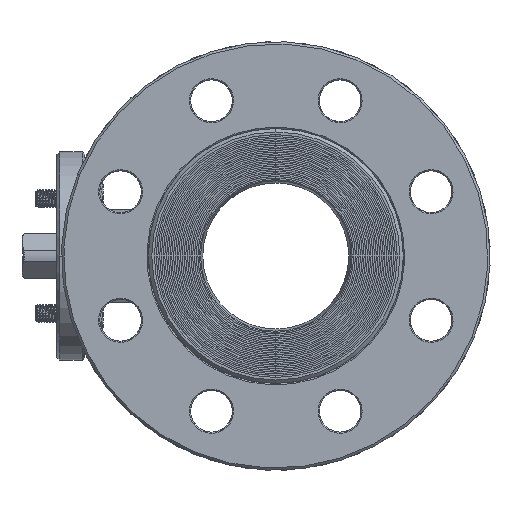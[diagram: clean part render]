
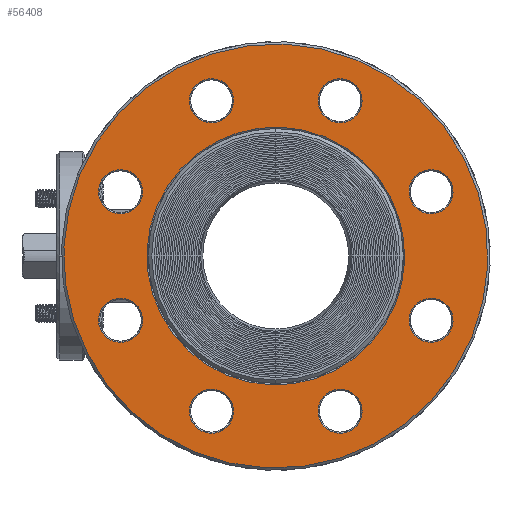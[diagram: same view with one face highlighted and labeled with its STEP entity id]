
A CAD part, left-side view. The second image highlights one B-rep face of the part: STEP entity #56408.
In plain terms, the highlighted planar face has unit normal (-1, 0, 0).
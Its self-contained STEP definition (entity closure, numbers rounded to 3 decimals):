
#13014=CARTESIAN_POINT('',(-83.,0.,0.));
#13015=DIRECTION('',(-1.,0.,0.));
#13016=DIRECTION('',(0.,0.924,0.383));
#13017=AXIS2_PLACEMENT_3D('',#13014,#13015,#13016);
#13022=CARTESIAN_POINT('',(-83.,0.,0.));
#13023=DIRECTION('',(-1.,0.,0.));
#13024=DIRECTION('',(0.,-0.924,-0.383));
#13025=AXIS2_PLACEMENT_3D('',#13022,#13023,#13024);
#13030=CARTESIAN_POINT('',(-83.,0.,0.));
#13031=DIRECTION('',(-1.,0.,0.));
#13032=DIRECTION('',(0.,0.924,0.383));
#13033=AXIS2_PLACEMENT_3D('',#13030,#13031,#13032);
#13038=CARTESIAN_POINT('',(-83.,0.,0.));
#13039=DIRECTION('',(-1.,0.,0.));
#13040=DIRECTION('',(0.,-0.924,-0.383));
#13041=AXIS2_PLACEMENT_3D('',#13038,#13039,#13040);
#13046=CARTESIAN_POINT('',(-83.,-27.745,-66.981));
#13047=DIRECTION('',(1.,0.,0.));
#13048=DIRECTION('',(0.,-0.924,-0.383));
#13049=AXIS2_PLACEMENT_3D('',#13046,#13047,#13048);
#13054=CARTESIAN_POINT('',(-83.,-27.745,-66.981));
#13055=DIRECTION('',(1.,0.,0.));
#13056=DIRECTION('',(0.,0.924,0.383));
#13057=AXIS2_PLACEMENT_3D('',#13054,#13055,#13056);
#13062=CARTESIAN_POINT('',(-83.,-66.981,-27.745));
#13063=DIRECTION('',(1.,0.,0.));
#13064=DIRECTION('',(0.,-0.924,-0.383));
#13065=AXIS2_PLACEMENT_3D('',#13062,#13063,#13064);
#13070=CARTESIAN_POINT('',(-83.,-66.981,-27.745));
#13071=DIRECTION('',(1.,0.,0.));
#13072=DIRECTION('',(0.,0.924,0.383));
#13073=AXIS2_PLACEMENT_3D('',#13070,#13071,#13072);
#13078=CARTESIAN_POINT('',(-83.,-66.981,27.745));
#13079=DIRECTION('',(1.,0.,0.));
#13080=DIRECTION('',(0.,-0.924,-0.383));
#13081=AXIS2_PLACEMENT_3D('',#13078,#13079,#13080);
#13086=CARTESIAN_POINT('',(-83.,-66.981,27.745));
#13087=DIRECTION('',(1.,0.,0.));
#13088=DIRECTION('',(0.,0.924,0.383));
#13089=AXIS2_PLACEMENT_3D('',#13086,#13087,#13088);
#13094=CARTESIAN_POINT('',(-83.,-27.745,66.981));
#13095=DIRECTION('',(1.,0.,0.));
#13096=DIRECTION('',(0.,-0.924,-0.383));
#13097=AXIS2_PLACEMENT_3D('',#13094,#13095,#13096);
#13102=CARTESIAN_POINT('',(-83.,-27.745,66.981));
#13103=DIRECTION('',(1.,0.,0.));
#13104=DIRECTION('',(0.,0.924,0.383));
#13105=AXIS2_PLACEMENT_3D('',#13102,#13103,#13104);
#13110=CARTESIAN_POINT('',(-83.,27.745,66.981));
#13111=DIRECTION('',(1.,0.,0.));
#13112=DIRECTION('',(0.,-0.924,-0.383));
#13113=AXIS2_PLACEMENT_3D('',#13110,#13111,#13112);
#13118=CARTESIAN_POINT('',(-83.,27.745,66.981));
#13119=DIRECTION('',(1.,0.,0.));
#13120=DIRECTION('',(0.,0.924,0.383));
#13121=AXIS2_PLACEMENT_3D('',#13118,#13119,#13120);
#13126=CARTESIAN_POINT('',(-83.,66.981,27.745));
#13127=DIRECTION('',(1.,0.,0.));
#13128=DIRECTION('',(0.,-0.924,-0.383));
#13129=AXIS2_PLACEMENT_3D('',#13126,#13127,#13128);
#13134=CARTESIAN_POINT('',(-83.,66.981,27.745));
#13135=DIRECTION('',(1.,0.,0.));
#13136=DIRECTION('',(0.,0.924,0.383));
#13137=AXIS2_PLACEMENT_3D('',#13134,#13135,#13136);
#13142=CARTESIAN_POINT('',(-83.,66.981,-27.745));
#13143=DIRECTION('',(1.,0.,0.));
#13144=DIRECTION('',(0.,-0.924,-0.383));
#13145=AXIS2_PLACEMENT_3D('',#13142,#13143,#13144);
#13150=CARTESIAN_POINT('',(-83.,66.981,-27.745));
#13151=DIRECTION('',(1.,0.,0.));
#13152=DIRECTION('',(0.,0.924,0.383));
#13153=AXIS2_PLACEMENT_3D('',#13150,#13151,#13152);
#13158=CARTESIAN_POINT('',(-83.,27.745,-66.981));
#13159=DIRECTION('',(1.,0.,0.));
#13160=DIRECTION('',(0.,-0.924,-0.383));
#13161=AXIS2_PLACEMENT_3D('',#13158,#13159,#13160);
#13166=CARTESIAN_POINT('',(-83.,27.745,-66.981));
#13167=DIRECTION('',(1.,0.,0.));
#13168=DIRECTION('',(0.,0.924,0.383));
#13169=AXIS2_PLACEMENT_3D('',#13166,#13167,#13168);
#47486=CARTESIAN_POINT('',(-83.,51.368,21.277));
#47487=CARTESIAN_POINT('',(-83.,-51.368,-21.277));
#47488=VERTEX_POINT('',#47486);
#47489=VERTEX_POINT('',#47487);
#47506=CARTESIAN_POINT('',(-83.,84.535,35.016));
#47507=CARTESIAN_POINT('',(-83.,-84.535,-35.016));
#47508=VERTEX_POINT('',#47506);
#47509=VERTEX_POINT('',#47507);
#47578=CARTESIAN_POINT('',(-83.,-36.521,-70.617));
#47579=CARTESIAN_POINT('',(-83.,-18.968,-63.346));
#47580=VERTEX_POINT('',#47578);
#47581=VERTEX_POINT('',#47579);
#47586=CARTESIAN_POINT('',(-83.,-75.758,-31.38));
#47587=CARTESIAN_POINT('',(-83.,-58.205,-24.109));
#47588=VERTEX_POINT('',#47586);
#47589=VERTEX_POINT('',#47587);
#47594=CARTESIAN_POINT('',(-83.,-75.758,24.109));
#47595=CARTESIAN_POINT('',(-83.,-58.205,31.38));
#47596=VERTEX_POINT('',#47594);
#47597=VERTEX_POINT('',#47595);
#47602=CARTESIAN_POINT('',(-83.,-36.521,63.346));
#47603=CARTESIAN_POINT('',(-83.,-18.968,70.617));
#47604=VERTEX_POINT('',#47602);
#47605=VERTEX_POINT('',#47603);
#47610=CARTESIAN_POINT('',(-83.,18.968,63.346));
#47611=CARTESIAN_POINT('',(-83.,36.521,70.617));
#47612=VERTEX_POINT('',#47610);
#47613=VERTEX_POINT('',#47611);
#47618=CARTESIAN_POINT('',(-83.,58.205,24.109));
#47619=CARTESIAN_POINT('',(-83.,75.758,31.38));
#47620=VERTEX_POINT('',#47618);
#47621=VERTEX_POINT('',#47619);
#47626=CARTESIAN_POINT('',(-83.,58.205,-31.38));
#47627=CARTESIAN_POINT('',(-83.,75.758,-24.109));
#47628=VERTEX_POINT('',#47626);
#47629=VERTEX_POINT('',#47627);
#47634=CARTESIAN_POINT('',(-83.,18.968,-70.617));
#47635=CARTESIAN_POINT('',(-83.,36.521,-63.346));
#47636=VERTEX_POINT('',#47634);
#47637=VERTEX_POINT('',#47635);
#56344=CARTESIAN_POINT('',(-83.,0.,0.));
#56345=DIRECTION('',(-1.,0.,0.));
#56346=DIRECTION('',(0.,-0.924,-0.383));
#56347=AXIS2_PLACEMENT_3D('',#56344,#56345,#56346);
#56348=PLANE('',#56347);
#56349=ORIENTED_EDGE('',*,*,#56334,.F.);
#56351=ORIENTED_EDGE('',*,*,#56350,.F.);
#56352=EDGE_LOOP('',(#56349,#56351));
#56353=FACE_OUTER_BOUND('',#56352,.F.);
#56355=ORIENTED_EDGE('',*,*,#56354,.T.);
#56357=ORIENTED_EDGE('',*,*,#56356,.T.);
#56358=EDGE_LOOP('',(#56355,#56357));
#56359=FACE_BOUND('',#56358,.F.);
#56361=ORIENTED_EDGE('',*,*,#56360,.F.);
#56363=ORIENTED_EDGE('',*,*,#56362,.F.);
#56364=EDGE_LOOP('',(#56361,#56363));
#56365=FACE_BOUND('',#56364,.F.);
#56367=ORIENTED_EDGE('',*,*,#56366,.F.);
#56369=ORIENTED_EDGE('',*,*,#56368,.F.);
#56370=EDGE_LOOP('',(#56367,#56369));
#56371=FACE_BOUND('',#56370,.F.);
#56373=ORIENTED_EDGE('',*,*,#56372,.F.);
#56375=ORIENTED_EDGE('',*,*,#56374,.F.);
#56376=EDGE_LOOP('',(#56373,#56375));
#56377=FACE_BOUND('',#56376,.F.);
#56379=ORIENTED_EDGE('',*,*,#56378,.F.);
#56381=ORIENTED_EDGE('',*,*,#56380,.F.);
#56382=EDGE_LOOP('',(#56379,#56381));
#56383=FACE_BOUND('',#56382,.F.);
#56385=ORIENTED_EDGE('',*,*,#56384,.F.);
#56387=ORIENTED_EDGE('',*,*,#56386,.F.);
#56388=EDGE_LOOP('',(#56385,#56387));
#56389=FACE_BOUND('',#56388,.F.);
#56391=ORIENTED_EDGE('',*,*,#56390,.F.);
#56393=ORIENTED_EDGE('',*,*,#56392,.F.);
#56394=EDGE_LOOP('',(#56391,#56393));
#56395=FACE_BOUND('',#56394,.F.);
#56397=ORIENTED_EDGE('',*,*,#56396,.F.);
#56399=ORIENTED_EDGE('',*,*,#56398,.F.);
#56400=EDGE_LOOP('',(#56397,#56399));
#56401=FACE_BOUND('',#56400,.F.);
#56403=ORIENTED_EDGE('',*,*,#56402,.F.);
#56405=ORIENTED_EDGE('',*,*,#56404,.F.);
#56406=EDGE_LOOP('',(#56403,#56405));
#56407=FACE_BOUND('',#56406,.F.);
#56408=ADVANCED_FACE('',(#56353,#56359,#56365,#56371,#56377,#56383,#56389,
#56395,#56401,#56407),#56348,.T.);
#13018=CIRCLE('',#13017,55.6);
#13026=CIRCLE('',#13025,55.6);
#13034=CIRCLE('',#13033,91.5);
#13042=CIRCLE('',#13041,91.5);
#13050=CIRCLE('',#13049,9.5);
#13058=CIRCLE('',#13057,9.5);
#13066=CIRCLE('',#13065,9.5);
#13074=CIRCLE('',#13073,9.5);
#13082=CIRCLE('',#13081,9.5);
#13090=CIRCLE('',#13089,9.5);
#13098=CIRCLE('',#13097,9.5);
#13106=CIRCLE('',#13105,9.5);
#13114=CIRCLE('',#13113,9.5);
#13122=CIRCLE('',#13121,9.5);
#13130=CIRCLE('',#13129,9.5);
#13138=CIRCLE('',#13137,9.5);
#13146=CIRCLE('',#13145,9.5);
#13154=CIRCLE('',#13153,9.5);
#13162=CIRCLE('',#13161,9.5);
#13170=CIRCLE('',#13169,9.5);
#56334=EDGE_CURVE('',#47508,#47509,#13034,.T.);
#56350=EDGE_CURVE('',#47509,#47508,#13042,.T.);
#56354=EDGE_CURVE('',#47488,#47489,#13018,.T.);
#56356=EDGE_CURVE('',#47489,#47488,#13026,.T.);
#56360=EDGE_CURVE('',#47580,#47581,#13050,.T.);
#56362=EDGE_CURVE('',#47581,#47580,#13058,.T.);
#56366=EDGE_CURVE('',#47588,#47589,#13066,.T.);
#56368=EDGE_CURVE('',#47589,#47588,#13074,.T.);
#56372=EDGE_CURVE('',#47596,#47597,#13082,.T.);
#56374=EDGE_CURVE('',#47597,#47596,#13090,.T.);
#56378=EDGE_CURVE('',#47604,#47605,#13098,.T.);
#56380=EDGE_CURVE('',#47605,#47604,#13106,.T.);
#56384=EDGE_CURVE('',#47612,#47613,#13114,.T.);
#56386=EDGE_CURVE('',#47613,#47612,#13122,.T.);
#56390=EDGE_CURVE('',#47620,#47621,#13130,.T.);
#56392=EDGE_CURVE('',#47621,#47620,#13138,.T.);
#56396=EDGE_CURVE('',#47628,#47629,#13146,.T.);
#56398=EDGE_CURVE('',#47629,#47628,#13154,.T.);
#56402=EDGE_CURVE('',#47636,#47637,#13162,.T.);
#56404=EDGE_CURVE('',#47637,#47636,#13170,.T.);
